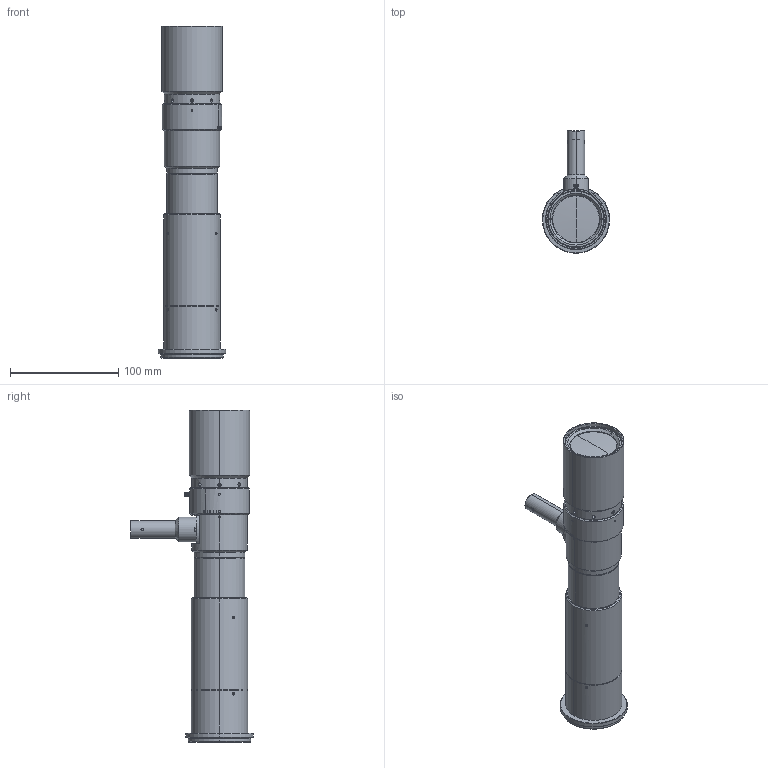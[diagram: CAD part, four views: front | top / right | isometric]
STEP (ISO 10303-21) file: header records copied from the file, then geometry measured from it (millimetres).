
FILE_DESCRIPTION (( 'STEP AP203' ), '1' );
FILE_NAME ('A24298_MML5-HR80DVI-43M58.STEP', '2022-06-22T06:10:14', ( '' ), ( '' ), 'SwSTEP 2.0', 'SolidWorks 2020', '' );
FILE_SCHEMA (( 'CONFIG_CONTROL_DESIGN' ));
Length unit declared in the file: millimetre
Products named in the file (1): A24298_MML5-HR80DVI-43M58
Bounding box: 62 x 112.77 x 306.76 mm (x, y, z)
Volume: 528294.6 mm3; surface area: 77754.1 mm2
Topology: 1 solids, 7 shells, 796 faces, 1944 edges, 1235 vertices
Faces by surface type: cylinder 279, plane 252, cone 197, bspline 56, torus 8, sphere 4
Entity records: 32460 total; most frequent: CARTESIAN_POINT 14665, ORIENTED_EDGE 3872, DIRECTION 3363, EDGE_CURVE 1936, AXIS2_PLACEMENT_3D 1313, VERTEX_POINT 1235, EDGE_LOOP 883, FACE_OUTER_BOUND 796
